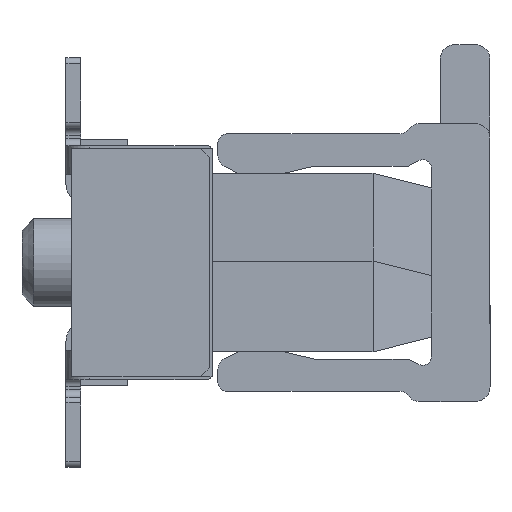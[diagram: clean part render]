
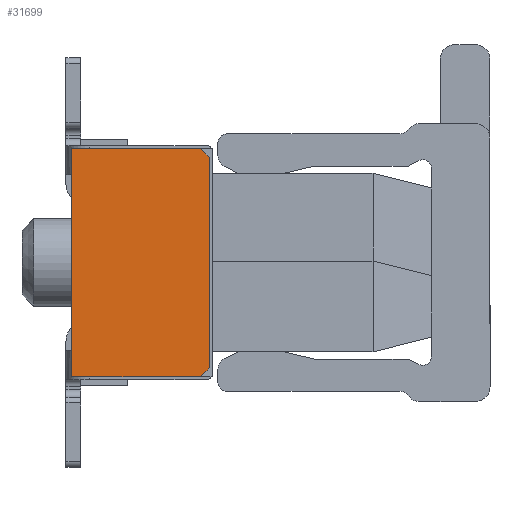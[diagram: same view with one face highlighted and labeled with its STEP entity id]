
A CAD part, left-side view. The second image highlights one B-rep face of the part: STEP entity #31699.
In plain terms, the highlighted planar face has unit normal (-1, 0, 0).
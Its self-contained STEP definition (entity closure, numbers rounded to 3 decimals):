
#7342 = VECTOR ( 'NONE', #45689, 1000. ) ;
#10027 = PLANE ( 'NONE',  #45280 ) ;
#10056 = FACE_OUTER_BOUND ( 'NONE', #39102, .T. ) ;
#10074 = CARTESIAN_POINT ( 'NONE',  ( -17.25, -7.61, -3.625 ) ) ;
#10076 = DIRECTION ( 'NONE',  ( -1., 0., 0. ) ) ;
#10078 = DIRECTION ( 'NONE',  ( 0., 0., 1. ) ) ;
#14046 = VERTEX_POINT ( 'NONE', #23428 ) ;
#20731 = LINE ( 'NONE', #20732, #41966 ) ;
#20732 = CARTESIAN_POINT ( 'NONE',  ( -17.25, -4.26, -3.475 ) ) ;
#20733 = DIRECTION ( 'NONE',  ( 0., -1., 0. ) ) ;
#20773 = LINE ( 'NONE', #20774, #41945 ) ;
#20774 = CARTESIAN_POINT ( 'NONE',  ( -17.25, -5.11, -0.29 ) ) ;
#20775 = DIRECTION ( 'NONE',  ( 0., 0., -1. ) ) ;
#21064 = LINE ( 'NONE', #21078, #41813 ) ;
#21078 = CARTESIAN_POINT ( 'NONE',  ( -17.25, -4.26, 0.425 ) ) ;
#21079 = DIRECTION ( 'NONE',  ( 0., 1., 0. ) ) ;
#21314 = LINE ( 'NONE', #21315, #41701 ) ;
#21315 = CARTESIAN_POINT ( 'NONE',  ( -17.25, -7.31, -3.475 ) ) ;
#21316 = DIRECTION ( 'NONE',  ( 0., -0.707, 0.707 ) ) ;
#21416 = LINE ( 'NONE', #21417, #41657 ) ;
#21417 = CARTESIAN_POINT ( 'NONE',  ( -17.25, -7.46, 0.275 ) ) ;
#21418 = DIRECTION ( 'NONE',  ( 0., 0.707, 0.707 ) ) ;
#23428 = CARTESIAN_POINT ( 'NONE',  ( -17.25, -7.46, -3.325 ) ) ;
#23770 = EDGE_CURVE ( 'NONE', #14046, #40477, #45771, .T. ) ;
#24535 = EDGE_CURVE ( 'NONE', #41060, #40871, #20731, .T. ) ;
#24549 = EDGE_CURVE ( 'NONE', #40240, #41060, #20773, .T. ) ;
#24651 = EDGE_CURVE ( 'NONE', #41200, #40240, #21064, .T. ) ;
#26890 = CARTESIAN_POINT ( 'NONE',  ( -17.25, -5.11, 0.425 ) ) ;
#26994 = CARTESIAN_POINT ( 'NONE',  ( -17.25, -7.46, 0.275 ) ) ;
#27102 = CARTESIAN_POINT ( 'NONE',  ( -17.25, -7.31, -3.475 ) ) ;
#27146 = CARTESIAN_POINT ( 'NONE',  ( -17.25, -5.11, -3.475 ) ) ;
#30195 = EDGE_CURVE ( 'NONE', #40871, #14046, #21314, .T. ) ;
#30252 = EDGE_CURVE ( 'NONE', #40477, #41200, #21416, .T. ) ;
#31699 = ADVANCED_FACE ( 'NONE', ( #10056 ), #10027, .T. ) ;
#33058 = ORIENTED_EDGE ( 'NONE', *, *, #30252, .T. ) ;
#33069 = ORIENTED_EDGE ( 'NONE', *, *, #23770, .T. ) ;
#33075 = ORIENTED_EDGE ( 'NONE', *, *, #30195, .T. ) ;
#33080 = ORIENTED_EDGE ( 'NONE', *, *, #24535, .T. ) ;
#38354 = ORIENTED_EDGE ( 'NONE', *, *, #24549, .T. ) ;
#39102 = EDGE_LOOP ( 'NONE', ( #39374, #38354, #33080, #33075, #33069, #33058 ) ) ;
#39374 = ORIENTED_EDGE ( 'NONE', *, *, #24651, .T. ) ;
#40240 = VERTEX_POINT ( 'NONE', #26890 ) ;
#40477 = VERTEX_POINT ( 'NONE', #26994 ) ;
#40871 = VERTEX_POINT ( 'NONE', #27102 ) ;
#41060 = VERTEX_POINT ( 'NONE', #27146 ) ;
#41200 = VERTEX_POINT ( 'NONE', #48525 ) ;
#41657 = VECTOR ( 'NONE', #21418, 1000. ) ;
#41701 = VECTOR ( 'NONE', #21316, 1000. ) ;
#41813 = VECTOR ( 'NONE', #21079, 1000. ) ;
#41945 = VECTOR ( 'NONE', #20775, 1000. ) ;
#41966 = VECTOR ( 'NONE', #20733, 1000. ) ;
#45280 = AXIS2_PLACEMENT_3D ( 'NONE', #10074, #10076, #10078 ) ;
#45689 = DIRECTION ( 'NONE',  ( 0., 0., 1. ) ) ;
#45698 = CARTESIAN_POINT ( 'NONE',  ( -17.25, -7.46, -3.625 ) ) ;
#45771 = LINE ( 'NONE', #45698, #7342 ) ;
#48525 = CARTESIAN_POINT ( 'NONE',  ( -17.25, -7.31, 0.425 ) ) ;
